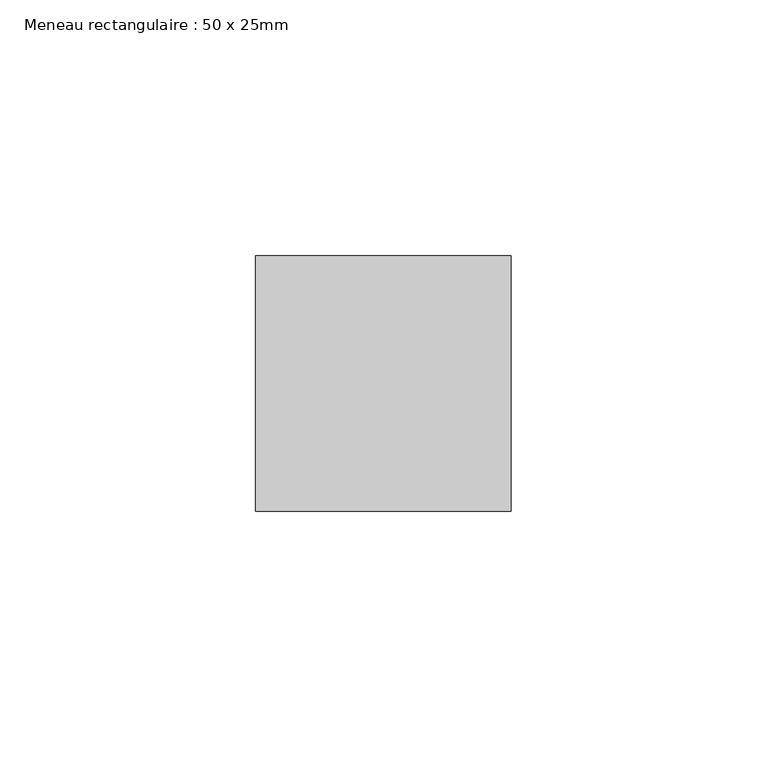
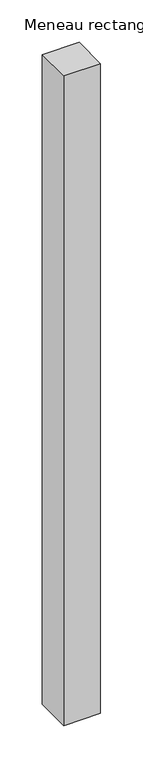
"""IFC4 building model written with IfcOpenShell, lengths in millimetres: member geometry, Meneau rectangulaire : 50 x 25mm."""

from ifc_helpers import new_model, si_unit, frame, origin, place, context, project, spatial, polyline, outline, extrude, source, transform, mapped, element, save


def meneau_rectangulaire_50_x_25mm_a79417a0(model_context):
    return source(origin(), model_context, "Body", "SweptSolid", [
        extrude(outline(polyline([(0.0, 0.0), (0.0, -50.0), (-50.0, -50.0), (-50.0, 0.0), (0.0, 0.0)])), frame((0.0, 0.0, -935.0), z_axis=(0.0, 0.0, 1.0), x_axis=(1.0, 0.0, 0.0)), (0.0, 0.0, 1.0), 935.0),
    ])


if __name__ == "__main__":
    model = new_model("IFC4")
    model_context = context("Model", 3, world=origin())
    ifc_project = project(units=[si_unit("LENGTHUNIT", "METRE", prefix="MILLI")], contexts=[model_context])
    site = spatial("IfcSite", under=ifc_project)
    building = spatial("IfcBuilding", under=site)
    placement = place(None, origin())
    meneau_rectangulaire_50_x_25mm_shape = meneau_rectangulaire_50_x_25mm_a79417a0(model_context)
    element("IfcMember", 1, ObjectType="Meneau rectangulaire : 50 x 25mm", at=placement, inside=building, context=model_context, shape_type="MappedRepresentation", body=[
        mapped(meneau_rectangulaire_50_x_25mm_shape, transform((0.0, 0.0, 0.0), x_axis=(1.0, 0.0, 0.0), y_axis=(0.0, 1.0, 0.0), z_axis=(0.0, 0.0, 1.0))),
    ])
    save(model, "model.ifc")
